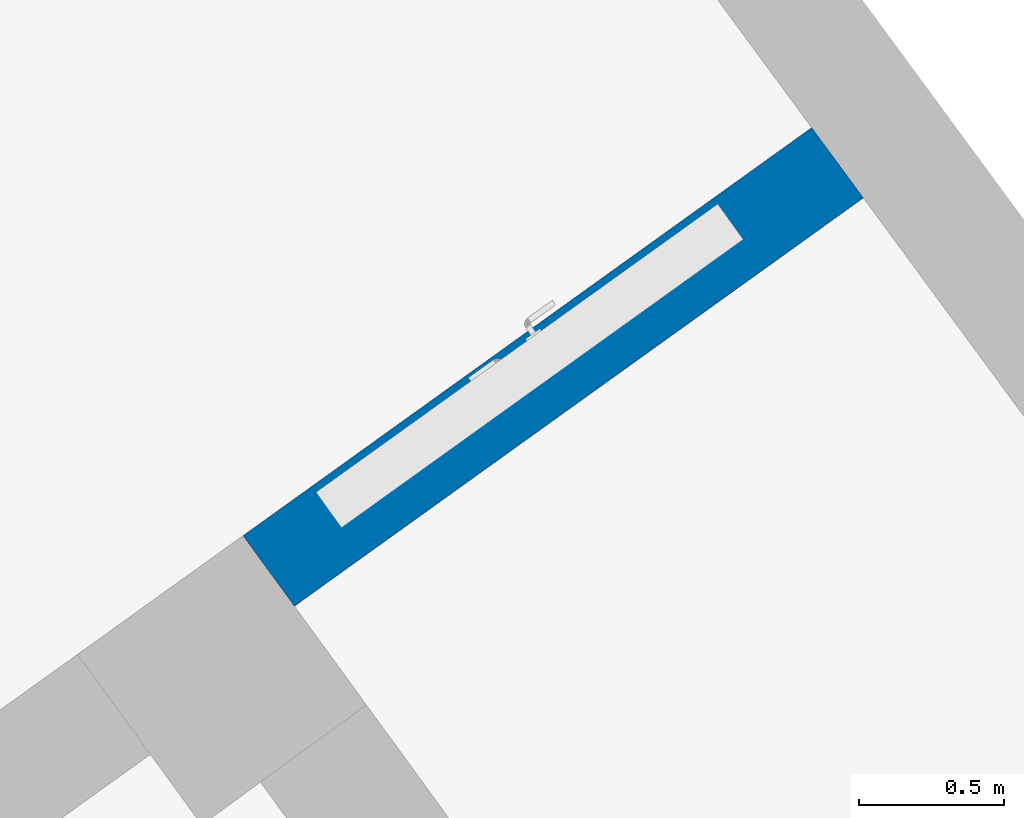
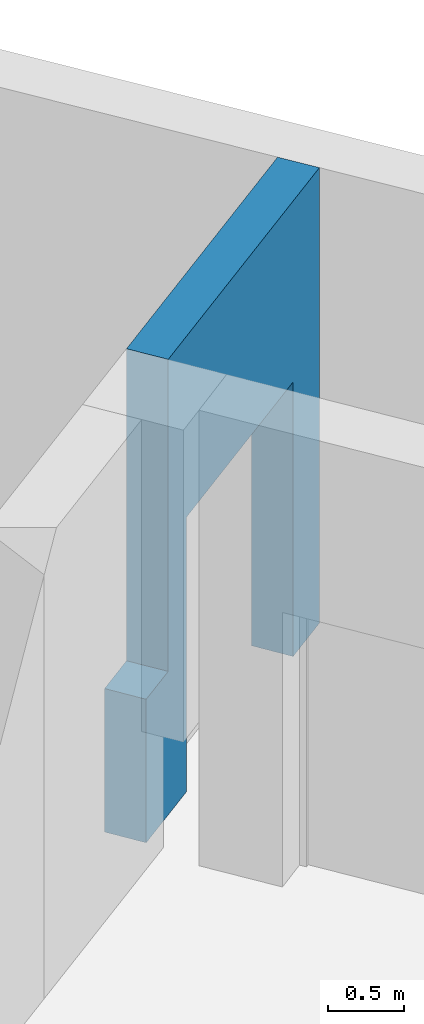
# One storey, part 113 of 157: 1 wall, 1 opening.
"""IFC2X3 building model written with IfcOpenShell, lengths in millimetres."""

from ifc_helpers import new_model, entity, si_unit, converted_unit, derived_unit, direction, frame, frame_2d, origin, place, context, subcontext, project, spatial, rectangle, extrude, faceted_brep, material, layer, layer_set, type_object, element, save


model = new_model("IFC2X3")

# Units and contexts
model_context = context("Model", 3, precision=0.01, world=origin(), true_north=direction((6.123031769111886e-17, 1.0)))
body_context = subcontext(model_context, "Body", "Model", "MODEL_VIEW")
ifc_project = project(units=[si_unit("LENGTHUNIT", "METRE", prefix="MILLI"), si_unit("AREAUNIT", "SQUARE_METRE"), si_unit("VOLUMEUNIT", "CUBIC_METRE"), converted_unit("PLANEANGLEUNIT", "DEGREE", entity("IfcRatioMeasure", 0.017453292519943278), si_unit("PLANEANGLEUNIT", "RADIAN"), dimensions=[0, 0, 0, 0, 0, 0, 0]), si_unit("MASSUNIT", "GRAM", prefix="KILO"), derived_unit("MASSDENSITYUNIT", [(si_unit("MASSUNIT", "GRAM", prefix="KILO"), 1), (si_unit("LENGTHUNIT", "METRE"), -3)]), derived_unit("MOMENTOFINERTIAUNIT", [(si_unit("LENGTHUNIT", "METRE"), 4)]), si_unit("TIMEUNIT", "SECOND"), si_unit("FREQUENCYUNIT", "HERTZ"), si_unit("THERMODYNAMICTEMPERATUREUNIT", "DEGREE_CELSIUS"), derived_unit("THERMALTRANSMITTANCEUNIT", [(si_unit("MASSUNIT", "GRAM", prefix="KILO"), 1), (si_unit("THERMODYNAMICTEMPERATUREUNIT", "KELVIN"), -1), (si_unit("TIMEUNIT", "SECOND"), -3)]), derived_unit("THERMALCONDUCTANCEUNIT", [(si_unit("MASSUNIT", "GRAM", prefix="KILO"), 1), (si_unit("LENGTHUNIT", "METRE"), 1), (si_unit("THERMODYNAMICTEMPERATUREUNIT", "KELVIN"), -1), (si_unit("TIMEUNIT", "SECOND"), -3)]), derived_unit("VOLUMETRICFLOWRATEUNIT", [(si_unit("LENGTHUNIT", "METRE"), 3), (si_unit("TIMEUNIT", "SECOND"), -1)]), derived_unit("MASSFLOWRATEUNIT", [(si_unit("MASSUNIT", "GRAM", prefix="KILO"), 1), (si_unit("TIMEUNIT", "SECOND"), -1)]), derived_unit("ROTATIONALFREQUENCYUNIT", [(si_unit("TIMEUNIT", "SECOND"), -1)]), si_unit("ELECTRICCURRENTUNIT", "AMPERE"), si_unit("ELECTRICVOLTAGEUNIT", "VOLT"), si_unit("POWERUNIT", "WATT"), converted_unit("FORCEUNIT", "KIP", entity("IfcRatioMeasure", 2.088543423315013e-05), si_unit("FORCEUNIT", "NEWTON"), dimensions=[1, 1, -2, 0, 0, 0, 0]), si_unit("ILLUMINANCEUNIT", "LUX"), si_unit("LUMINOUSFLUXUNIT", "LUMEN"), si_unit("LUMINOUSINTENSITYUNIT", "CANDELA"), derived_unit("USERDEFINED", [(si_unit("MASSUNIT", "GRAM", prefix="KILO"), -1), (si_unit("LENGTHUNIT", "METRE"), -2), (si_unit("TIMEUNIT", "SECOND"), 3), (si_unit("LUMINOUSFLUXUNIT", "LUMEN"), 1)]), derived_unit("USERDEFINED", [(si_unit("MASSUNIT", "GRAM", prefix="KILO"), 1), (si_unit("LENGTHUNIT", "METRE"), 3), (si_unit("TIMEUNIT", "SECOND"), -3), (si_unit("ELECTRICCURRENTUNIT", "AMPERE"), -2)]), derived_unit("USERDEFINED", [(si_unit("LENGTHUNIT", "METRE"), 2), (si_unit("TIMEUNIT", "SECOND"), -2)]), derived_unit("SOUNDPOWERUNIT", [(si_unit("MASSUNIT", "GRAM", prefix="KILO"), 1), (si_unit("LENGTHUNIT", "METRE"), 2), (si_unit("TIMEUNIT", "SECOND"), -3)]), derived_unit("SOUNDPRESSUREUNIT", [(si_unit("MASSUNIT", "GRAM", prefix="KILO"), 1), (si_unit("LENGTHUNIT", "METRE"), -1), (si_unit("TIMEUNIT", "SECOND"), -2)]), derived_unit("LINEARVELOCITYUNIT", [(si_unit("LENGTHUNIT", "METRE"), 1), (si_unit("TIMEUNIT", "SECOND"), -1)]), si_unit("PRESSUREUNIT", "PASCAL"), derived_unit("USERDEFINED", [(si_unit("LENGTHUNIT", "METRE"), -2), (si_unit("MASSUNIT", "GRAM", prefix="KILO"), 1), (si_unit("TIMEUNIT", "SECOND"), -2)]), derived_unit("LINEARFORCEUNIT", [(si_unit("MASSUNIT", "GRAM", prefix="KILO"), 1), (si_unit("LENGTHUNIT", "METRE"), 1), (si_unit("TIMEUNIT", "SECOND"), -2), (si_unit("LENGTHUNIT", "METRE"), -1)]), derived_unit("PLANARFORCEUNIT", [(si_unit("MASSUNIT", "GRAM", prefix="KILO"), 1), (si_unit("LENGTHUNIT", "METRE"), 1), (si_unit("TIMEUNIT", "SECOND"), -2), (si_unit("LENGTHUNIT", "METRE"), -2)]), derived_unit("SPECIFICHEATCAPACITYUNIT", [(si_unit("LENGTHUNIT", "METRE"), 2), (si_unit("TIMEUNIT", "SECOND"), -2), (si_unit("THERMODYNAMICTEMPERATUREUNIT", "KELVIN"), -1)]), derived_unit("VAPORPERMEABILITYUNIT", [(si_unit("TIMEUNIT", "SECOND"), 1), (si_unit("LENGTHUNIT", "METRE"), -1)]), derived_unit("DYNAMICVISCOSITYUNIT", [(si_unit("MASSUNIT", "GRAM", prefix="KILO"), 1), (si_unit("LENGTHUNIT", "METRE"), -1), (si_unit("TIMEUNIT", "SECOND"), -1)]), derived_unit("THERMALEXPANSIONCOEFFICIENTUNIT", [(si_unit("THERMODYNAMICTEMPERATUREUNIT", "KELVIN"), -1)])], contexts=[model_context])

# Site, building, storey
site_placement = place(None, frame((0.0, 0.0, 0.0), z_axis=(0.0, 0.0, 1.0), x_axis=(0.8191520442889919, 0.5735764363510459, 0.0)))
site = spatial("IfcSite", under=ifc_project, at=site_placement, Name="Default", CompositionType="ELEMENT")
building_placement = place(site_placement, origin())
building = spatial("IfcBuilding", under=site, at=building_placement, CompositionType="ELEMENT")
storey_placement = place(building_placement, origin())
storey = spatial("IfcBuildingStorey", under=building, at=storey_placement, Name="1.EG +0.00", CompositionType="ELEMENT", Elevation=-4.331468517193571e-12)

# Wall, opening
ifc_material = material(Name="Analytical Wall Surface_CJC")
ifc_layer = layer(ifc_material, 300.0)
ifc_layer_set = layer_set([ifc_layer], Name="Basic Wall:Wand_Innen_30")
wall_type = type_object("IfcWallType", Name="Basic Wall:Wand_Innen_30", PredefinedType="STANDARD", material=ifc_layer_set)
wall_placement = place(storey_placement, frame((-181944.68655229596, 187926.05636194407, -1150.0), z_axis=(0.0, 0.0, 1.0), x_axis=(-0.9999333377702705, -0.011546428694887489, 0.0)))
wall = element("IfcWall", 1, at=wall_placement, inside=storey, type_object=wall_type, Name="Basic Wall:Wand_Innen_30", ObjectType="Basic Wall:Wand_Innen_30", context=body_context, shape_type="Brep", body=[
    faceted_brep([(2410.152124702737, -150.0, 3650.0), (3.5195309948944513, -150.0, 3650.0), (3.5195309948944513, -150.0, 0.0), (419.11261409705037, -150.0, 0.0), (419.11261409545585, -150.0, 2200.0), (2119.1126140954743, -150.0, 2200.0), (2119.1126140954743, -150.0, 0.0), (2759.1126140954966, -150.0, 0.0), (2759.1126140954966, -150.0, 1150.0), (2410.152124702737, -150.0, 1150.0), (0.0, 150.0, 3650.0), (2408.056017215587, 150.0, 3650.0), (2408.056017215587, 150.0, 1150.0), (2759.112614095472, 150.0, 1150.0), (2759.112614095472, 150.0, 0.0), (2119.1126140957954, 150.0, 0.0), (2119.112614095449, 150.0, 2200.0), (419.1126140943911, 150.0, 2200.0), (419.11261409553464, 150.0, 0.0), (0.0, 150.0, 0.0)], [[[0, 1, 2, 3, 4, 5, 6, 7, 8, 9]], [[10, 11, 12, 13, 14, 15, 16, 17, 18, 19]], [[2, 19, 18, 3]], [[1, 0, 11, 10]], [[2, 1, 10, 19]], [[7, 14, 13, 8]], [[9, 8, 13, 12]], [[0, 9, 12, 11]], [[17, 4, 3, 18]], [[4, 17, 16, 5]], [[5, 16, 15, 6]], [[14, 7, 6, 15]]]),
])
opening_placement = place(wall_placement, frame((2119.1126140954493, 150.0, 0.0)))
element("IfcOpeningElement", 2, at=opening_placement, cuts=wall, Name="M_Door-Passage-Double-Flush:160x210:1", ObjectType="Opening", context=body_context, shape_type="SweptSolid", body=[
    extrude(rectangle(XDim=2200.0, YDim=1699.9999999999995, at=frame_2d((1100.0, 849.9999999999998), x_axis=(1.0, 0.0))), frame((0.0, 0.0, 0.0), z_axis=(0.0, -1.0, 0.0), x_axis=(0.0, 0.0, 1.0)), (0.0, 0.0, 1.0), 300.0),
])

save(model, "model.ifc")
